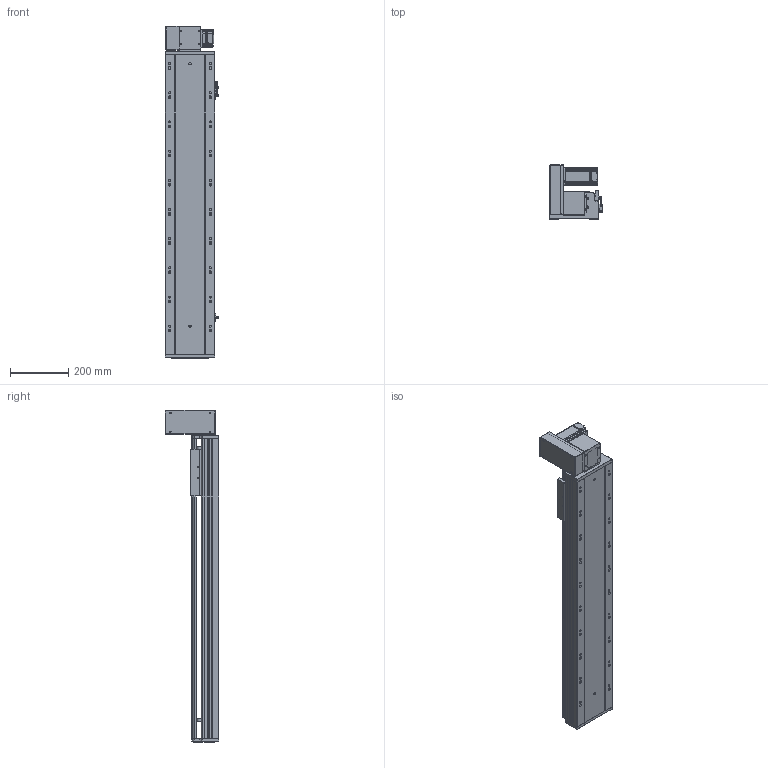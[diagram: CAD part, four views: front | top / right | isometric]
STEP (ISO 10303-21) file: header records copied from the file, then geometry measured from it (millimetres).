
FILE_DESCRIPTION (( 'STEP AP203' ), '1' );
FILE_NAME ('RY170-T-300-UL-P400W.SLDASM_750.step', '2021-03-02T02:15:16', ( '盈信电脑' ), ( '东莞市道滘镇水果街19号' ), 'SwSTEP 2.0', 'SolidWorks 2012', '' );
FILE_SCHEMA (( 'CONFIG_CONTROL_DESIGN' ));
Products named in the file (18): RY170-T-300-UL-P400W.SLDASM_750; RY170-T蹟翐M4; 15; RY170肮祭謫萇儂欶; RY170同步轮电机安装板(400W); RY170-T肮祭湍揤踡輸2; 滅袉蝶18-10; RY120-T主同步轮轴承压盖; RY170-T肮祭謫裔啣; RY170翋肮祭謫釱; RY170-T肮祭湍揤踡輸1; RY170肮祭謫ヶ裔啣; RY170綴裔啣; RY170-T-300肮祭謫倰第裔啣-DL_750; 覜茼ん672; RY170外置感应片(200共用）; RY170肮祭湍臏賑輸; RY170-T-300肮祭謫倰第菁釱-DL_750
Assembly tree (20 placements, depth 2):
  RY170-T-300-UL-P400W.SLDASM_750
    RY170-T-300肮祭謫倰第菁釱-DL_750
    RY170肮祭湍臏賑輸
    RY170-T-300肮祭謫倰第裔啣-DL_750
    RY170綴裔啣
    覜茼ん672  x3
    RY170外置感应片(200共用）
    RY170肮祭謫ヶ裔啣
    RY170翋肮祭謫釱
    RY170-T肮祭湍揤踡輸1
    RY170-T肮祭湍揤踡輸2
    RY170-T肮祭謫裔啣
    滅袉蝶18-10  x2
    RY120-T主同步轮轴承压盖
    RY170肮祭謫萇儂欶
    RY170同步轮电机安装板(400W)
    RY170-T蹟翐M4
    15
Bounding box: 183.7 x 184 x 1138 mm (x, y, z)
Volume: 5817399.2 mm3; surface area: 1956957 mm2
Topology: 20 solids, 20 shells, 2617 faces, 7370 edges, 4735 vertices
Faces by surface type: cylinder 1212, plane 1151, cone 224, bspline 30
Entity records: 84712 total; most frequent: CARTESIAN_POINT 19505, ORIENTED_EDGE 13408, DIRECTION 13000, EDGE_CURVE 6704, AXIS2_PLACEMENT_3D 4572, VERTEX_POINT 4403, LINE 3856, VECTOR 3856
